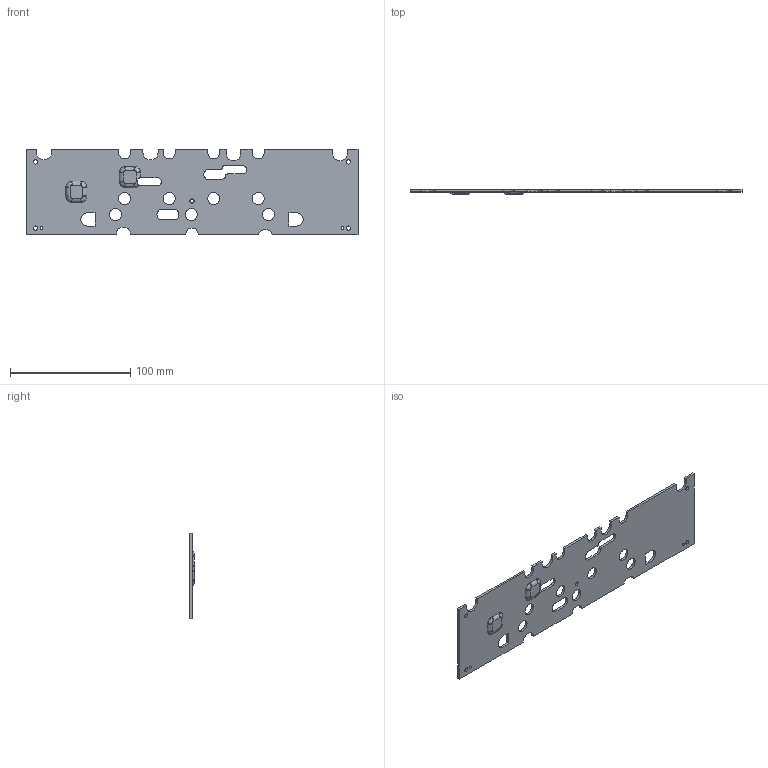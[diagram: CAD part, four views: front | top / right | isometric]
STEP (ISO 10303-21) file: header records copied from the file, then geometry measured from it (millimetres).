
FILE_DESCRIPTION((''),'2;1');
FILE_NAME('HEATSPREADER_AMP_TOP_30_1','2020-08-04T',('kym12'),(''),'CREO PARAMETRIC BY PTC INC, 2017170','CREO PARAMETRIC BY PTC INC, 2017170','');
FILE_SCHEMA(('AUTOMOTIVE_DESIGN { 1 0 10303 214 1 1 1 1 }'));
Length unit declared in the file: millimetre
Products named in the file (1): HEATSPREADER_AMP_TOP_30_1
Bounding box: 276 x 4 x 71 mm (x, y, z)
Volume: 34949.1 mm3; surface area: 37675.5 mm2
Topology: 1 solids, 1 shells, 208 faces, 567 edges, 363 vertices
Faces by surface type: cylinder 95, plane 57, bspline 56
Entity records: 11636 total; most frequent: CARTESIAN_POINT 4673, ORIENTED_EDGE 1134, DIRECTION 860, PRESENTATION_STYLE_ASSIGNMENT 594, STYLED_ITEM 568, CURVE_STYLE 567, EDGE_CURVE 567, VERTEX_POINT 363
